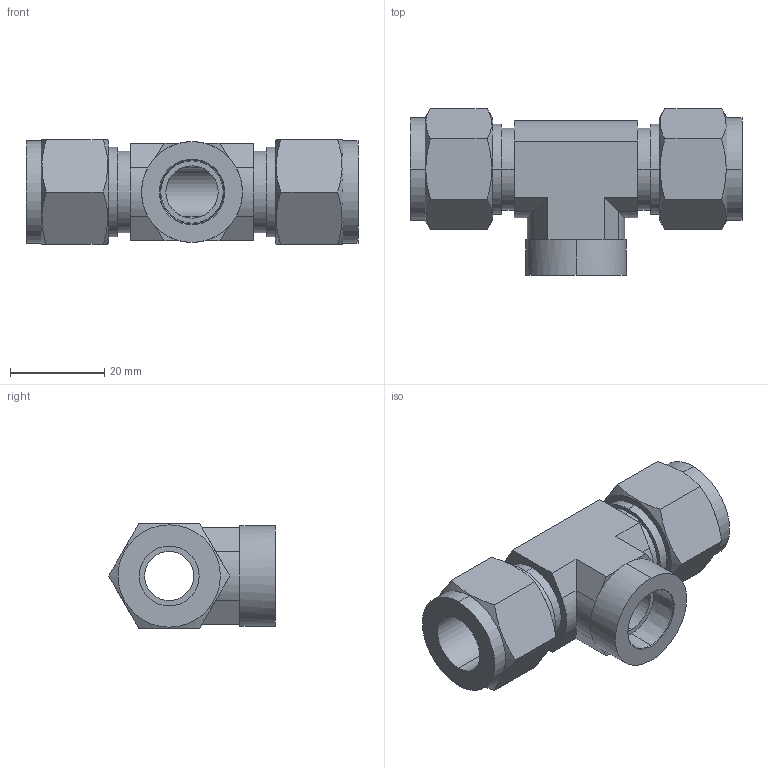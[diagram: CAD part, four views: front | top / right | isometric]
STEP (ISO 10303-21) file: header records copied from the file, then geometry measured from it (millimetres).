
FILE_DESCRIPTION (( 'STEP AP203' ), '1' );
FILE_NAME ('DTH08-04 SS.STEP', '2009-10-26T05:48:30', ( ' ' ), ( '' ), 'SwSTEP 2.0', 'SolidWorks 2008', '' );
FILE_SCHEMA (( 'CONFIG_CONTROL_DESIGN' ));
Length unit declared in the file: millimetre
Products named in the file (1): DTH08-04 SS
Bounding box: 70.4 x 35.33 x 22.23 mm (x, y, z)
Volume: 21192.5 mm3; surface area: 10296.2 mm2
Topology: 1 solids, 1 shells, 87 faces, 208 edges, 131 vertices
Faces by surface type: plane 44, cylinder 28, cone 15
Entity records: 2888 total; most frequent: CARTESIAN_POINT 802, ORIENTED_EDGE 416, DIRECTION 415, EDGE_CURVE 208, AXIS2_PLACEMENT_3D 158, VERTEX_POINT 131, EDGE_LOOP 99, VECTOR 99
